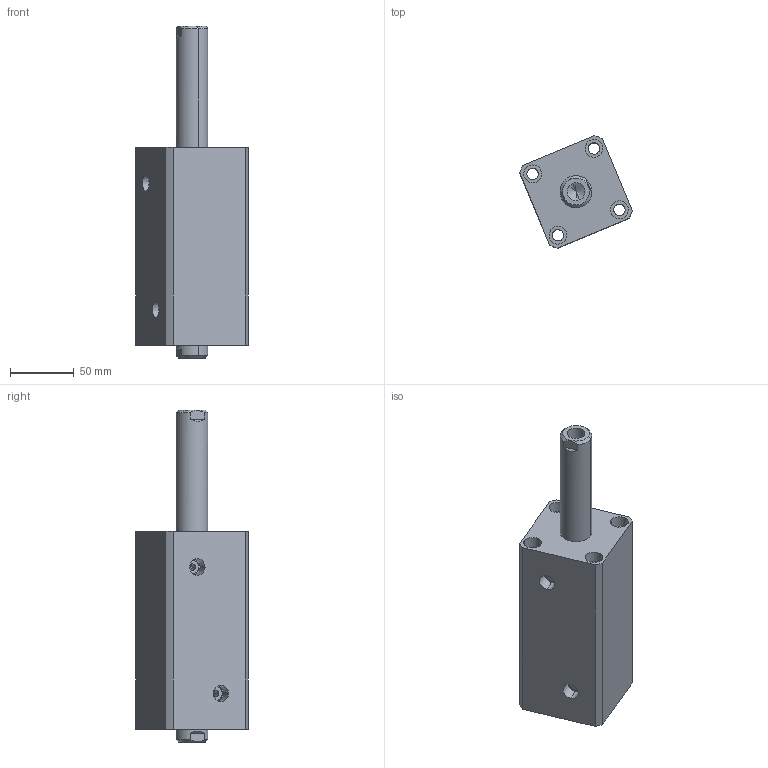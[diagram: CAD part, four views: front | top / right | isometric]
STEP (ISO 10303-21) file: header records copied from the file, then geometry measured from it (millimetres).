
FILE_DESCRIPTION (( 'STEP AP214' ), '1' );
FILE_NAME ('chtb-sw40x85n_asm.STEP', '2018-06-09T00:33:33', ( 'Windows' ), ( 'Microsoft' ), 'SwSTEP 2.0', 'SolidWorks 2015', '' );
FILE_SCHEMA (( 'AUTOMOTIVE_DESIGN' ));
Length unit declared in the file: millimetre
Products named in the file (4): CHTB-SW40X85NHSG; CHTB-SW40X85NBT; CHTB-SD40QG; chtb-sw40x85n_asm
Assembly tree (3 placements, depth 2):
  chtb-sw40x85n_asm
    CHTB-SD40QG
    CHTB-SW40X85NBT
    CHTB-SW40X85NHSG
Bounding box: 88.11 x 88.11 x 260 mm (x, y, z)
Volume: 681551.1 mm3; surface area: 124619.9 mm2
Topology: 3 solids, 3 shells, 167 faces, 429 edges, 282 vertices
Faces by surface type: cylinder 84, plane 40, cone 17, bspline 14, torus 12
Entity records: 10325 total; most frequent: CARTESIAN_POINT 6131, ORIENTED_EDGE 838, DIRECTION 822, EDGE_CURVE 419, AXIS2_PLACEMENT_3D 348, VERTEX_POINT 282, EDGE_LOOP 207, CIRCLE 189
